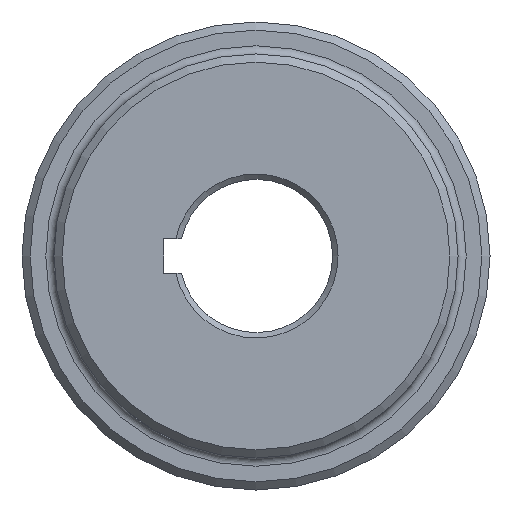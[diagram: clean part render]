
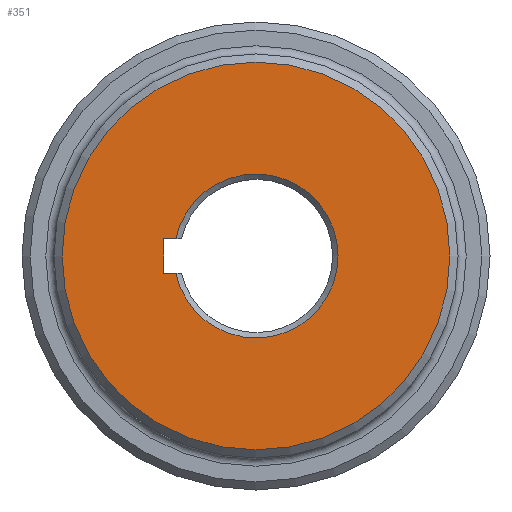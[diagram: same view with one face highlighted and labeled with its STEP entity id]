
A CAD part, left-side view. The second image highlights one B-rep face of the part: STEP entity #351.
In plain terms, the highlighted planar face has unit normal (-1, 0, 0).
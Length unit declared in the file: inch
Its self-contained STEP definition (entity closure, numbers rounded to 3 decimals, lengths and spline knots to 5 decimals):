
#23 = AXIS2_PLACEMENT_3D ( 'NONE', #867, #792, #2032 ) ;
#36 = EDGE_LOOP ( 'NONE', ( #2122, #1324, #1804, #1035 ) ) ;
#122 = VERTEX_POINT ( 'NONE', #452 ) ;
#125 = CARTESIAN_POINT ( 'NONE',  ( 0., 0.67925, -0.125 ) ) ;
#183 = EDGE_CURVE ( 'NONE', #1845, #1845, #1203, .T. ) ;
#266 = VERTEX_POINT ( 'NONE', #524 ) ;
#301 = FACE_OUTER_BOUND ( 'NONE', #1614, .T. ) ;
#309 = LINE ( 'NONE', #1689, #663 ) ;
#339 = PLANE ( 'NONE',  #942 ) ;
#351 = ADVANCED_FACE ( 'NONE', ( #301, #1823 ), #339, .F. ) ;
#439 = DIRECTION ( 'NONE',  ( 1., 0., 0. ) ) ;
#452 = CARTESIAN_POINT ( 'NONE',  ( 0., 0.58965, 0.125 ) ) ;
#478 = EDGE_CURVE ( 'NONE', #611, #1617, #309, .T. ) ;
#524 = CARTESIAN_POINT ( 'NONE',  ( 0., 0.67925, 0.125 ) ) ;
#537 = CARTESIAN_POINT ( 'NONE',  ( 0., 0.67925, -0.125 ) ) ;
#611 = VERTEX_POINT ( 'NONE', #125 ) ;
#625 = CARTESIAN_POINT ( 'NONE',  ( 0., 0., 0. ) ) ;
#644 = VECTOR ( 'NONE', #1979, 39.37008 ) ;
#663 = VECTOR ( 'NONE', #2036, 39.37008 ) ;
#681 = CARTESIAN_POINT ( 'NONE',  ( 0., 0., -1.425 ) ) ;
#719 = LINE ( 'NONE', #537, #644 ) ;
#792 = DIRECTION ( 'NONE',  ( -1., 0., 0. ) ) ;
#837 = AXIS2_PLACEMENT_3D ( 'NONE', #2017, #439, #1701 ) ;
#858 = LINE ( 'NONE', #939, #1126 ) ;
#867 = CARTESIAN_POINT ( 'NONE',  ( 0., 0., 0. ) ) ;
#939 = CARTESIAN_POINT ( 'NONE',  ( 0., 0., 0.125 ) ) ;
#942 = AXIS2_PLACEMENT_3D ( 'NONE', #625, #2173, #2062 ) ;
#1035 = ORIENTED_EDGE ( 'NONE', *, *, #1478, .F. ) ;
#1126 = VECTOR ( 'NONE', #2088, 39.37008 ) ;
#1142 = CARTESIAN_POINT ( 'NONE',  ( 0., 0.58965, -0.125 ) ) ;
#1162 = EDGE_CURVE ( 'NONE', #122, #266, #858, .T. ) ;
#1203 = CIRCLE ( 'NONE', #23, 1.425 ) ;
#1324 = ORIENTED_EDGE ( 'NONE', *, *, #1907, .T. ) ;
#1478 = EDGE_CURVE ( 'NONE', #266, #611, #719, .T. ) ;
#1614 = EDGE_LOOP ( 'NONE', ( #1925 ) ) ;
#1617 = VERTEX_POINT ( 'NONE', #1142 ) ;
#1689 = CARTESIAN_POINT ( 'NONE',  ( 0., 0., -0.125 ) ) ;
#1701 = DIRECTION ( 'NONE',  ( 0., 0., -1. ) ) ;
#1804 = ORIENTED_EDGE ( 'NONE', *, *, #478, .F. ) ;
#1823 = FACE_BOUND ( 'NONE', #36, .T. ) ;
#1845 = VERTEX_POINT ( 'NONE', #681 ) ;
#1907 = EDGE_CURVE ( 'NONE', #122, #1617, #2041, .T. ) ;
#1925 = ORIENTED_EDGE ( 'NONE', *, *, #183, .T. ) ;
#1979 = DIRECTION ( 'NONE',  ( 0., 0., -1. ) ) ;
#2017 = CARTESIAN_POINT ( 'NONE',  ( 0., 0., 0. ) ) ;
#2032 = DIRECTION ( 'NONE',  ( 0., 0., -1. ) ) ;
#2036 = DIRECTION ( 'NONE',  ( 0., -1., 0. ) ) ;
#2041 = CIRCLE ( 'NONE', #837, 0.60275 ) ;
#2062 = DIRECTION ( 'NONE',  ( 0., 0., -1. ) ) ;
#2088 = DIRECTION ( 'NONE',  ( 0., 1., 0. ) ) ;
#2122 = ORIENTED_EDGE ( 'NONE', *, *, #1162, .F. ) ;
#2173 = DIRECTION ( 'NONE',  ( 1., 0., 0. ) ) ;
